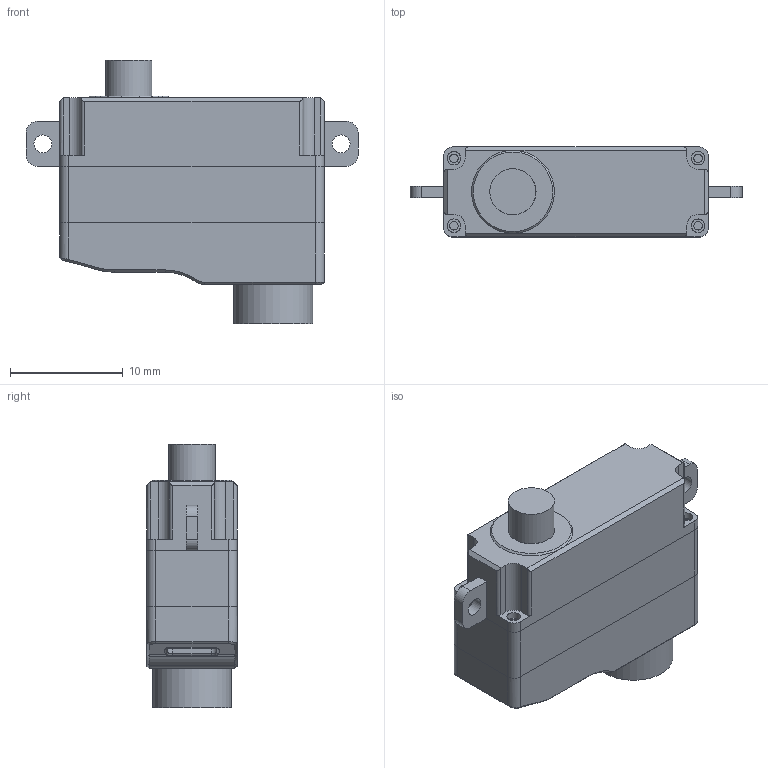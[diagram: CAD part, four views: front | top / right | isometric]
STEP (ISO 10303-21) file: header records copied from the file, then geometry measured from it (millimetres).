
FILE_DESCRIPTION(/* description */ (''),/* implementation_level */ '2;1');
FILE_NAME(/* name */ 'KST-X08H',/* time_stamp */ '2018-04-10T10:14:48+08:00',/* author */ (''),/* organization */ (''),/* preprocessor_version */ 'ST-DEVELOPER v9',/* originating_system */ 'UGS - NX 4.0',/* authorisation */ '');
FILE_SCHEMA (('CONFIG_CONTROL_DESIGN'));
Length unit declared in the file: millimetre
Products named in the file (1): Admi15ADy1ks
Bounding box: 29.5 x 8 x 23.45 mm (x, y, z)
Volume: 1618.2 mm3; surface area: 3324.9 mm2
Topology: 5 solids, 5 shells, 218 faces, 595 edges, 385 vertices
Faces by surface type: plane 108, cylinder 93, cone 9, bspline 8
Full cylindrical faces by diameter (mm): 0.75 x4, 1.2 x8, 1.6 x2, 2.6 x1, 4.1 x2, 7 x2
Entity records: 6949 total; most frequent: CARTESIAN_POINT 1320, DIRECTION 1187, ORIENTED_EDGE 1126, EDGE_CURVE 563, AXIS2_PLACEMENT_3D 426, VERTEX_POINT 373, LINE 335, VECTOR 335
